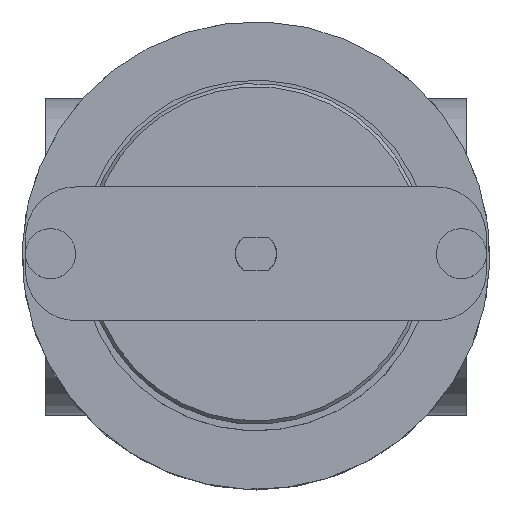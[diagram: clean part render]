
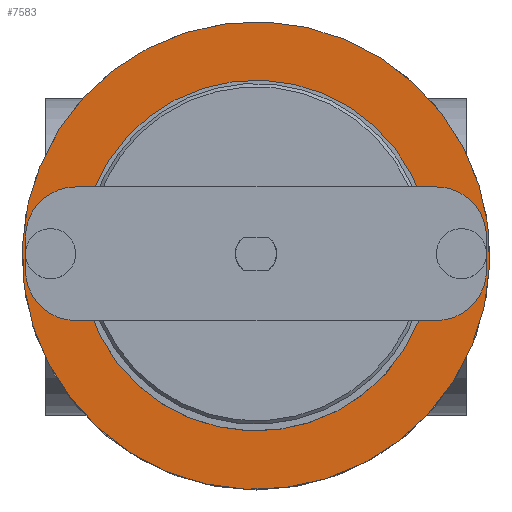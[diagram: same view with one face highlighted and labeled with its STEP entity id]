
A CAD part, top view. The second image highlights one B-rep face of the part: STEP entity #7583.
In plain terms, the highlighted planar face has unit normal (0, 0, 1).
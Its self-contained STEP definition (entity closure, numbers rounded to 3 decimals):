
#11 = EDGE_CURVE ( 'NONE', #11004, #7203, #6826, .T. ) ;
#260 = DIRECTION ( 'NONE',  ( 0., 1., 0. ) ) ;
#667 = CARTESIAN_POINT ( 'NONE',  ( 18.328, 11.593, 146.08 ) ) ;
#697 = FACE_BOUND ( 'NONE', #2190, .T. ) ;
#876 = ORIENTED_EDGE ( 'NONE', *, *, #3327, .F. ) ;
#1047 = AXIS2_PLACEMENT_3D ( 'NONE', #1410, #5562, #10318 ) ;
#1124 = CARTESIAN_POINT ( 'NONE',  ( 79.828, 19.093, 146.08 ) ) ;
#1314 = ORIENTED_EDGE ( 'NONE', *, *, #10815, .F. ) ;
#1410 = CARTESIAN_POINT ( 'NONE',  ( 18.328, 11.593, 146.08 ) ) ;
#1450 = PLANE ( 'NONE',  #2697 ) ;
#1508 = FACE_BOUND ( 'NONE', #10296, .T. ) ;
#1797 = VERTEX_POINT ( 'NONE', #2531 ) ;
#1997 = DIRECTION ( 'NONE',  ( 0., 0., 1. ) ) ;
#2190 = EDGE_LOOP ( 'NONE', ( #876, #1314 ) ) ;
#2531 = CARTESIAN_POINT ( 'NONE',  ( 45.116, 76.264, 146.08 ) ) ;
#2697 = AXIS2_PLACEMENT_3D ( 'NONE', #4235, #8719, #6034 ) ;
#3021 = CIRCLE ( 'NONE', #11012, 7.5 ) ;
#3152 = DIRECTION ( 'NONE',  ( 0., 0., 1. ) ) ;
#3327 = EDGE_CURVE ( 'NONE', #3979, #7143, #6862, .T. ) ;
#3340 = EDGE_LOOP ( 'NONE', ( #10794, #9759 ) ) ;
#3415 = DIRECTION ( 'NONE',  ( 0., 1., 0. ) ) ;
#3435 = DIRECTION ( 'NONE',  ( 0., 0., -1. ) ) ;
#3451 = EDGE_CURVE ( 'NONE', #7745, #10821, #5196, .T. ) ;
#3776 = AXIS2_PLACEMENT_3D ( 'NONE', #11107, #1997, #6677 ) ;
#3848 = AXIS2_PLACEMENT_3D ( 'NONE', #11389, #10289, #3415 ) ;
#3888 = VERTEX_POINT ( 'NONE', #5400 ) ;
#3979 = VERTEX_POINT ( 'NONE', #11461 ) ;
#4017 = CIRCLE ( 'NONE', #6437, 7.5 ) ;
#4235 = CARTESIAN_POINT ( 'NONE',  ( 18.328, 11.593, 146.08 ) ) ;
#4644 = ORIENTED_EDGE ( 'NONE', *, *, #11, .F. ) ;
#4654 = EDGE_CURVE ( 'NONE', #1797, #3888, #8111, .T. ) ;
#4753 = EDGE_CURVE ( 'NONE', #10821, #7745, #4017, .T. ) ;
#4812 = ORIENTED_EDGE ( 'NONE', *, *, #10227, .F. ) ;
#4847 = DIRECTION ( 'NONE',  ( -1., 0., 0. ) ) ;
#5007 = DIRECTION ( 'NONE',  ( 0., 1., 0. ) ) ;
#5196 = CIRCLE ( 'NONE', #7624, 7.5 ) ;
#5239 = CARTESIAN_POINT ( 'NONE',  ( 79.828, 11.593, 146.08 ) ) ;
#5376 = ORIENTED_EDGE ( 'NONE', *, *, #3451, .T. ) ;
#5400 = CARTESIAN_POINT ( 'NONE',  ( -8.46, -53.079, 146.08 ) ) ;
#5562 = DIRECTION ( 'NONE',  ( 0., 0., -1. ) ) ;
#5787 = EDGE_LOOP ( 'NONE', ( #4644, #4812 ) ) ;
#5824 = CARTESIAN_POINT ( 'NONE',  ( 18.328, 11.593, 146.08 ) ) ;
#5928 = FACE_OUTER_BOUND ( 'NONE', #3340, .T. ) ;
#6004 = CARTESIAN_POINT ( 'NONE',  ( -1.763, -36.911, 146.08 ) ) ;
#6034 = DIRECTION ( 'NONE',  ( -1., 0., 0. ) ) ;
#6437 = AXIS2_PLACEMENT_3D ( 'NONE', #5239, #7875, #8686 ) ;
#6677 = DIRECTION ( 'NONE',  ( 0., 1., 0. ) ) ;
#6826 = CIRCLE ( 'NONE', #3848, 7.5 ) ;
#6862 = CIRCLE ( 'NONE', #7613, 52.5 ) ;
#6911 = CARTESIAN_POINT ( 'NONE',  ( 79.828, 4.093, 146.08 ) ) ;
#7143 = VERTEX_POINT ( 'NONE', #6004 ) ;
#7203 = VERTEX_POINT ( 'NONE', #8745 ) ;
#7352 = CARTESIAN_POINT ( 'NONE',  ( -43.172, 11.593, 146.08 ) ) ;
#7388 = FACE_BOUND ( 'NONE', #5787, .T. ) ;
#7470 = DIRECTION ( 'NONE',  ( 0., 0., -1. ) ) ;
#7583 = ADVANCED_FACE ( 'NONE', ( #7388, #5928, #697, #1508 ), #1450, .F. ) ;
#7613 = AXIS2_PLACEMENT_3D ( 'NONE', #5824, #3152, #260 ) ;
#7624 = AXIS2_PLACEMENT_3D ( 'NONE', #9670, #3435, #5007 ) ;
#7745 = VERTEX_POINT ( 'NONE', #6911 ) ;
#7875 = DIRECTION ( 'NONE',  ( 0., 0., -1. ) ) ;
#8111 = CIRCLE ( 'NONE', #1047, 70. ) ;
#8461 = DIRECTION ( 'NONE',  ( 0., 1., 0. ) ) ;
#8686 = DIRECTION ( 'NONE',  ( 0., 1., 0. ) ) ;
#8719 = DIRECTION ( 'NONE',  ( 0., 0., -1. ) ) ;
#8745 = CARTESIAN_POINT ( 'NONE',  ( -43.172, 4.093, 146.08 ) ) ;
#9159 = CIRCLE ( 'NONE', #3776, 52.5 ) ;
#9285 = ORIENTED_EDGE ( 'NONE', *, *, #4753, .T. ) ;
#9545 = AXIS2_PLACEMENT_3D ( 'NONE', #667, #7470, #4847 ) ;
#9670 = CARTESIAN_POINT ( 'NONE',  ( 79.828, 11.593, 146.08 ) ) ;
#9759 = ORIENTED_EDGE ( 'NONE', *, *, #4654, .F. ) ;
#10227 = EDGE_CURVE ( 'NONE', #7203, #11004, #3021, .T. ) ;
#10289 = DIRECTION ( 'NONE',  ( 0., 0., 1. ) ) ;
#10295 = CIRCLE ( 'NONE', #9545, 70. ) ;
#10296 = EDGE_LOOP ( 'NONE', ( #9285, #5376 ) ) ;
#10318 = DIRECTION ( 'NONE',  ( -1., 0., 0. ) ) ;
#10360 = CARTESIAN_POINT ( 'NONE',  ( -43.172, 19.093, 146.08 ) ) ;
#10436 = EDGE_CURVE ( 'NONE', #3888, #1797, #10295, .T. ) ;
#10794 = ORIENTED_EDGE ( 'NONE', *, *, #10436, .F. ) ;
#10815 = EDGE_CURVE ( 'NONE', #7143, #3979, #9159, .T. ) ;
#10821 = VERTEX_POINT ( 'NONE', #1124 ) ;
#10904 = DIRECTION ( 'NONE',  ( 0., 0., 1. ) ) ;
#11004 = VERTEX_POINT ( 'NONE', #10360 ) ;
#11012 = AXIS2_PLACEMENT_3D ( 'NONE', #7352, #10904, #8461 ) ;
#11107 = CARTESIAN_POINT ( 'NONE',  ( 18.328, 11.593, 146.08 ) ) ;
#11389 = CARTESIAN_POINT ( 'NONE',  ( -43.172, 11.593, 146.08 ) ) ;
#11461 = CARTESIAN_POINT ( 'NONE',  ( 38.419, 60.096, 146.08 ) ) ;
